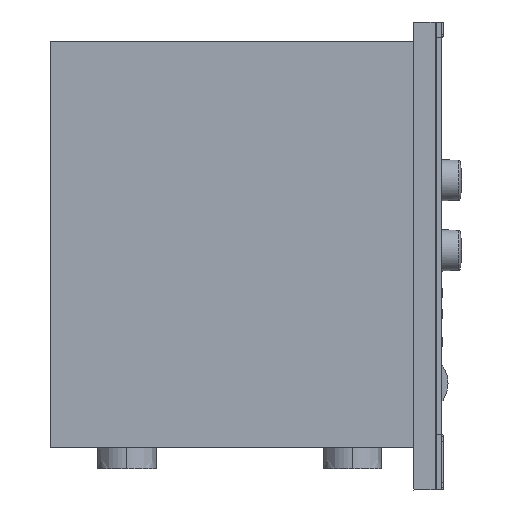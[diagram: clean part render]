
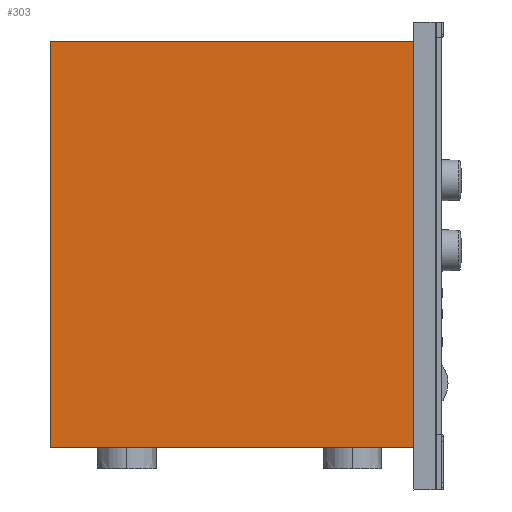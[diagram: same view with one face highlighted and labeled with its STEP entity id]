
A CAD part, front view. The second image highlights one B-rep face of the part: STEP entity #303.
In plain terms, the highlighted free-form (B-spline) face has degree [1, 1] with [2, 2] control points.
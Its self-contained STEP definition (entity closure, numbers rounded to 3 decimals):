
#303=ADVANCED_FACE('',(#428),#1575,.T.);
#428=FACE_OUTER_BOUND('',#556,.T.);
#556=EDGE_LOOP('',(#1032,#1033,#1034,#1035));
#1032=ORIENTED_EDGE('',*,*,#1303,.F.);
#1033=ORIENTED_EDGE('',*,*,#1296,.F.);
#1034=ORIENTED_EDGE('',*,*,#1304,.F.);
#1035=ORIENTED_EDGE('',*,*,#1292,.F.);
#1292=EDGE_CURVE('',#1460,#1461,#1795,.T.);
#1296=EDGE_CURVE('',#1464,#1465,#1799,.T.);
#1303=EDGE_CURVE('',#1465,#1460,#1806,.T.);
#1304=EDGE_CURVE('',#1461,#1464,#1807,.T.);
#1460=VERTEX_POINT('',#4906);
#1461=VERTEX_POINT('',#4907);
#1464=VERTEX_POINT('',#4910);
#1465=VERTEX_POINT('',#4911);
#1575=B_SPLINE_SURFACE_WITH_KNOTS('',1,1,((#4872,#4873),(#4874,#4875)),.UNSPECIFIED.,
.F.,.F.,.F.,(2,2),(2,2),(0.339,0.661),(0.324,
0.676),.UNSPECIFIED.);
#1795=B_SPLINE_CURVE_WITH_KNOTS('',1,(#4816,#4817),.UNSPECIFIED.,.F.,.F.,
(2,2),(0.,1.),.UNSPECIFIED.);
#1799=B_SPLINE_CURVE_WITH_KNOTS('',1,(#4824,#4825),.UNSPECIFIED.,.F.,.F.,
(2,2),(0.,1.),.UNSPECIFIED.);
#1806=B_SPLINE_CURVE_WITH_KNOTS('',1,(#4838,#4839),.UNSPECIFIED.,.F.,.F.,
(2,2),(0.,1.),.UNSPECIFIED.);
#1807=B_SPLINE_CURVE_WITH_KNOTS('',1,(#4840,#4841),.UNSPECIFIED.,.F.,.F.,
(2,2),(0.,1.),.UNSPECIFIED.);
#4816=CARTESIAN_POINT('',(-289.239,-195.072,38.963));
#4817=CARTESIAN_POINT('',(-289.239,-195.072,362.127));
#4824=CARTESIAN_POINT('',(6.261,-195.072,362.127));
#4825=CARTESIAN_POINT('',(6.261,-195.072,38.963));
#4838=CARTESIAN_POINT('',(6.261,-195.072,38.963));
#4839=CARTESIAN_POINT('',(-289.239,-195.072,38.963));
#4840=CARTESIAN_POINT('',(-289.239,-195.072,362.127));
#4841=CARTESIAN_POINT('',(6.261,-195.072,362.127));
#4872=CARTESIAN_POINT('',(-289.239,-195.072,38.963));
#4873=CARTESIAN_POINT('',(-289.239,-195.072,362.127));
#4874=CARTESIAN_POINT('',(6.261,-195.072,38.963));
#4875=CARTESIAN_POINT('',(6.261,-195.072,362.127));
#4906=CARTESIAN_POINT('',(-289.239,-195.072,38.963));
#4907=CARTESIAN_POINT('',(-289.239,-195.072,362.127));
#4910=CARTESIAN_POINT('',(6.261,-195.072,362.127));
#4911=CARTESIAN_POINT('',(6.261,-195.072,38.963));
